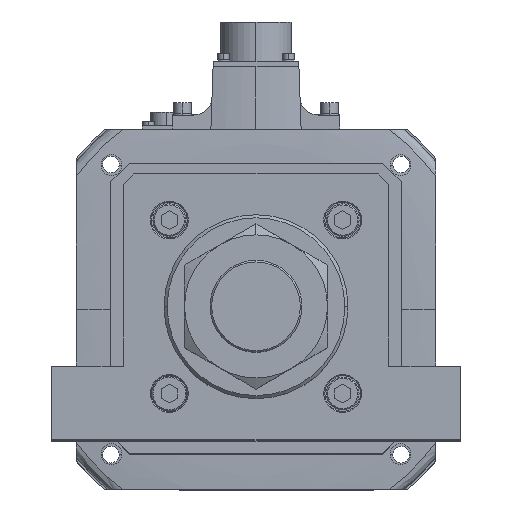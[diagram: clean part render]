
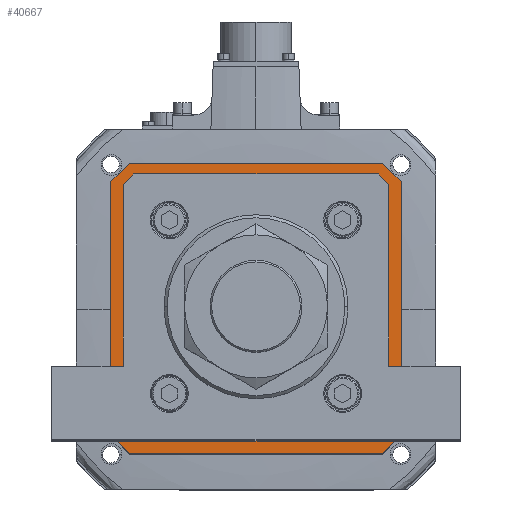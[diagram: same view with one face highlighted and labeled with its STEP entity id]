
A CAD part, top view. The second image highlights one B-rep face of the part: STEP entity #40667.
In plain terms, the highlighted planar face has unit normal (0, 0, 1) as drawn and (0, 0, -1) by its records, which use the part's own axes.
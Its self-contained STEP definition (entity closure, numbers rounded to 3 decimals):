
#4 = CARTESIAN_POINT ( 'NONE',  ( -59., 63., 60. ) ) ;
#200 = EDGE_CURVE ( 'NONE', #48301, #50693, #52297, .T. ) ;
#403 = CARTESIAN_POINT ( 'NONE',  ( -71., -71., 60. ) ) ;
#646 = DIRECTION ( 'NONE',  ( 0.707, 0.707, 0. ) ) ;
#756 = VERTEX_POINT ( 'NONE', #31251 ) ;
#2581 = VERTEX_POINT ( 'NONE', #5033 ) ;
#3020 = EDGE_CURVE ( 'NONE', #18130, #26961, #25593, .T. ) ;
#3035 = CARTESIAN_POINT ( 'NONE',  ( 63., -58.793, 60. ) ) ;
#3323 = LINE ( 'NONE', #53965, #52382 ) ;
#3984 = VERTEX_POINT ( 'NONE', #45568 ) ;
#4318 = VECTOR ( 'NONE', #42384, 1000. ) ;
#4432 = DIRECTION ( 'NONE',  ( 0.707, -0.707, 0. ) ) ;
#4818 = CARTESIAN_POINT ( 'NONE',  ( 62., 71., 60. ) ) ;
#5033 = CARTESIAN_POINT ( 'NONE',  ( -63., 58.793, 60. ) ) ;
#5243 = DIRECTION ( 'NONE',  ( -0.707, -0.707, 0. ) ) ;
#5680 = ORIENTED_EDGE ( 'NONE', *, *, #3020, .F. ) ;
#5694 = LINE ( 'NONE', #37962, #4318 ) ;
#6608 = CARTESIAN_POINT ( 'NONE',  ( -60.896, -60.896, 60. ) ) ;
#6643 = EDGE_CURVE ( 'NONE', #42741, #16992, #49987, .T. ) ;
#7093 = ORIENTED_EDGE ( 'NONE', *, *, #47283, .T. ) ;
#7465 = ORIENTED_EDGE ( 'NONE', *, *, #44078, .T. ) ;
#7594 = LINE ( 'NONE', #53218, #31423 ) ;
#7715 = LINE ( 'NONE', #55581, #24003 ) ;
#8002 = VERTEX_POINT ( 'NONE', #3035 ) ;
#9662 = CARTESIAN_POINT ( 'NONE',  ( 63., 59., 60. ) ) ;
#9734 = CARTESIAN_POINT ( 'NONE',  ( 60.896, 60.896, 60. ) ) ;
#11263 = DIRECTION ( 'NONE',  ( 0.707, 0.707, 0. ) ) ;
#12207 = ORIENTED_EDGE ( 'NONE', *, *, #19090, .T. ) ;
#12284 = EDGE_LOOP ( 'NONE', ( #5680, #12207, #47768, #24150, #50845, #47610, #41093, #20501 ) ) ;
#12840 = CARTESIAN_POINT ( 'NONE',  ( 62., -71., 60. ) ) ;
#13673 = EDGE_CURVE ( 'NONE', #29044, #756, #55163, .T. ) ;
#15035 = VECTOR ( 'NONE', #47771, 1000. ) ;
#15589 = EDGE_CURVE ( 'NONE', #48301, #52901, #55642, .T. ) ;
#16326 = ORIENTED_EDGE ( 'NONE', *, *, #29417, .T. ) ;
#16700 = CARTESIAN_POINT ( 'NONE',  ( 0., 0., 60. ) ) ;
#16992 = VERTEX_POINT ( 'NONE', #20406 ) ;
#17354 = DIRECTION ( 'NONE',  ( -1., 0., 0. ) ) ;
#18038 = FACE_OUTER_BOUND ( 'NONE', #12284, .T. ) ;
#18130 = VERTEX_POINT ( 'NONE', #38380 ) ;
#18421 = CARTESIAN_POINT ( 'NONE',  ( 63., 58.793, 60. ) ) ;
#18806 = ORIENTED_EDGE ( 'NONE', *, *, #13673, .T. ) ;
#19090 = EDGE_CURVE ( 'NONE', #18130, #50693, #5694, .T. ) ;
#20321 = LINE ( 'NONE', #4818, #24428 ) ;
#20406 = CARTESIAN_POINT ( 'NONE',  ( 58.793, 63., 60. ) ) ;
#20501 = ORIENTED_EDGE ( 'NONE', *, *, #50228, .T. ) ;
#22205 = DIRECTION ( 'NONE',  ( 0., -1., 0. ) ) ;
#22438 = DIRECTION ( 'NONE',  ( -0.707, 0.707, 0. ) ) ;
#23303 = ORIENTED_EDGE ( 'NONE', *, *, #33767, .T. ) ;
#23351 = VECTOR ( 'NONE', #22438, 1000. ) ;
#23729 = EDGE_CURVE ( 'NONE', #756, #53152, #3323, .T. ) ;
#24003 = VECTOR ( 'NONE', #29541, 1000. ) ;
#24150 = ORIENTED_EDGE ( 'NONE', *, *, #15589, .T. ) ;
#24428 = VECTOR ( 'NONE', #4432, 1000. ) ;
#25500 = CARTESIAN_POINT ( 'NONE',  ( -62., 71., 60. ) ) ;
#25538 = CARTESIAN_POINT ( 'NONE',  ( -60.896, 60.896, 60. ) ) ;
#25593 = LINE ( 'NONE', #403, #35123 ) ;
#25672 = LINE ( 'NONE', #9662, #35906 ) ;
#25913 = VECTOR ( 'NONE', #17354, 1000. ) ;
#26334 = VECTOR ( 'NONE', #646, 1000. ) ;
#26961 = VERTEX_POINT ( 'NONE', #12840 ) ;
#27624 = VECTOR ( 'NONE', #51697, 1000. ) ;
#27990 = LINE ( 'NONE', #4, #25913 ) ;
#28569 = CARTESIAN_POINT ( 'NONE',  ( -63., -58.793, 60. ) ) ;
#28915 = CARTESIAN_POINT ( 'NONE',  ( -71., 62., 60. ) ) ;
#29044 = VERTEX_POINT ( 'NONE', #28569 ) ;
#29229 = ORIENTED_EDGE ( 'NONE', *, *, #23729, .T. ) ;
#29417 = EDGE_CURVE ( 'NONE', #8002, #42741, #25672, .T. ) ;
#29541 = DIRECTION ( 'NONE',  ( 0., 1., 0. ) ) ;
#30080 = CARTESIAN_POINT ( 'NONE',  ( -58.793, 63., 60. ) ) ;
#31103 = LINE ( 'NONE', #39332, #26334 ) ;
#31251 = CARTESIAN_POINT ( 'NONE',  ( -58.793, -63., 60. ) ) ;
#31273 = DIRECTION ( 'NONE',  ( 1., 0., 0. ) ) ;
#31423 = VECTOR ( 'NONE', #5243, 1000. ) ;
#31895 = DIRECTION ( 'NONE',  ( 1., 0., 0. ) ) ;
#32074 = VERTEX_POINT ( 'NONE', #40532 ) ;
#32327 = DIRECTION ( 'NONE',  ( 0.707, -0.707, 0. ) ) ;
#33756 = FACE_BOUND ( 'NONE', #41059, .T. ) ;
#33767 = EDGE_CURVE ( 'NONE', #16992, #55753, #27990, .T. ) ;
#34272 = EDGE_CURVE ( 'NONE', #34469, #52901, #45019, .T. ) ;
#34469 = VERTEX_POINT ( 'NONE', #40473 ) ;
#34619 = VECTOR ( 'NONE', #51287, 1000. ) ;
#35123 = VECTOR ( 'NONE', #31273, 1000. ) ;
#35316 = LINE ( 'NONE', #48330, #46841 ) ;
#35906 = VECTOR ( 'NONE', #39695, 1000. ) ;
#36508 = LINE ( 'NONE', #25538, #27624 ) ;
#37435 = EDGE_CURVE ( 'NONE', #34469, #32074, #20321, .T. ) ;
#37840 = PLANE ( 'NONE',  #47167 ) ;
#37962 = CARTESIAN_POINT ( 'NONE',  ( -62., -71., 60. ) ) ;
#38380 = CARTESIAN_POINT ( 'NONE',  ( -62., -71., 60. ) ) ;
#39332 = CARTESIAN_POINT ( 'NONE',  ( 60.896, -60.896, 60. ) ) ;
#39695 = DIRECTION ( 'NONE',  ( 0., 1., 0. ) ) ;
#40473 = CARTESIAN_POINT ( 'NONE',  ( 62., 71., 60. ) ) ;
#40532 = CARTESIAN_POINT ( 'NONE',  ( 71., 62., 60. ) ) ;
#40667 = ADVANCED_FACE ( 'NONE', ( #33756, #18038 ), #37840, .F. ) ;
#41059 = EDGE_LOOP ( 'NONE', ( #7093, #7465, #18806, #29229, #44452, #16326, #49890, #23303 ) ) ;
#41093 = ORIENTED_EDGE ( 'NONE', *, *, #41996, .F. ) ;
#41418 = VECTOR ( 'NONE', #11263, 1000. ) ;
#41996 = EDGE_CURVE ( 'NONE', #3984, #32074, #7715, .T. ) ;
#42384 = DIRECTION ( 'NONE',  ( -0.707, 0.707, 0. ) ) ;
#42741 = VERTEX_POINT ( 'NONE', #18421 ) ;
#42823 = CARTESIAN_POINT ( 'NONE',  ( -71., 71., 60. ) ) ;
#43030 = CARTESIAN_POINT ( 'NONE',  ( -71., -62., 60. ) ) ;
#43142 = CARTESIAN_POINT ( 'NONE',  ( -71., 62., 60. ) ) ;
#44078 = EDGE_CURVE ( 'NONE', #2581, #29044, #35316, .T. ) ;
#44452 = ORIENTED_EDGE ( 'NONE', *, *, #53402, .T. ) ;
#45019 = LINE ( 'NONE', #42823, #15035 ) ;
#45568 = CARTESIAN_POINT ( 'NONE',  ( 71., -62., 60. ) ) ;
#46341 = VECTOR ( 'NONE', #32327, 1000. ) ;
#46617 = DIRECTION ( 'NONE',  ( 0., 0., 1. ) ) ;
#46841 = VECTOR ( 'NONE', #22205, 1000. ) ;
#47167 = AXIS2_PLACEMENT_3D ( 'NONE', #16700, #46617, #47181 ) ;
#47181 = DIRECTION ( 'NONE',  ( 1., 0., 0. ) ) ;
#47283 = EDGE_CURVE ( 'NONE', #55753, #2581, #36508, .T. ) ;
#47610 = ORIENTED_EDGE ( 'NONE', *, *, #37435, .T. ) ;
#47768 = ORIENTED_EDGE ( 'NONE', *, *, #200, .F. ) ;
#47771 = DIRECTION ( 'NONE',  ( -1., 0., 0. ) ) ;
#48301 = VERTEX_POINT ( 'NONE', #43142 ) ;
#48330 = CARTESIAN_POINT ( 'NONE',  ( -63., -59., 60. ) ) ;
#49890 = ORIENTED_EDGE ( 'NONE', *, *, #6643, .T. ) ;
#49987 = LINE ( 'NONE', #9734, #23351 ) ;
#50228 = EDGE_CURVE ( 'NONE', #3984, #26961, #7594, .T. ) ;
#50693 = VERTEX_POINT ( 'NONE', #43030 ) ;
#50845 = ORIENTED_EDGE ( 'NONE', *, *, #34272, .F. ) ;
#51287 = DIRECTION ( 'NONE',  ( 0., -1., 0. ) ) ;
#51697 = DIRECTION ( 'NONE',  ( -0.707, -0.707, 0. ) ) ;
#52297 = LINE ( 'NONE', #56011, #34619 ) ;
#52382 = VECTOR ( 'NONE', #31895, 1000. ) ;
#52881 = CARTESIAN_POINT ( 'NONE',  ( 58.793, -63., 60. ) ) ;
#52901 = VERTEX_POINT ( 'NONE', #25500 ) ;
#53152 = VERTEX_POINT ( 'NONE', #52881 ) ;
#53218 = CARTESIAN_POINT ( 'NONE',  ( 71., -62., 60. ) ) ;
#53402 = EDGE_CURVE ( 'NONE', #53152, #8002, #31103, .T. ) ;
#53965 = CARTESIAN_POINT ( 'NONE',  ( 59., -63., 60. ) ) ;
#55163 = LINE ( 'NONE', #6608, #46341 ) ;
#55581 = CARTESIAN_POINT ( 'NONE',  ( 71., 71., 60. ) ) ;
#55642 = LINE ( 'NONE', #28915, #41418 ) ;
#55753 = VERTEX_POINT ( 'NONE', #30080 ) ;
#56011 = CARTESIAN_POINT ( 'NONE',  ( -71., 71., 60. ) ) ;
